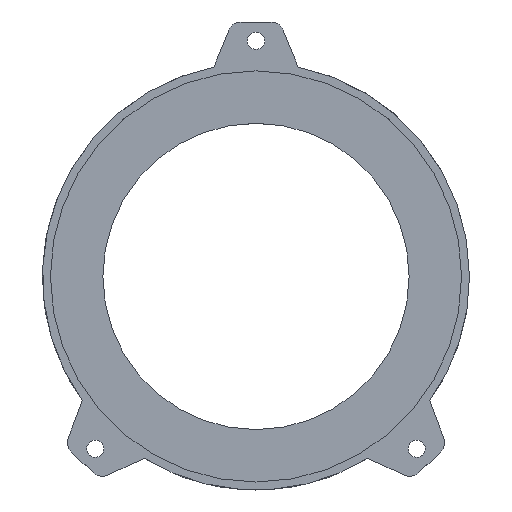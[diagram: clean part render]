
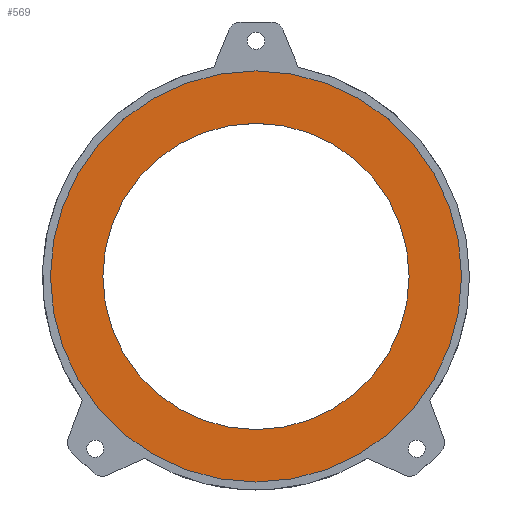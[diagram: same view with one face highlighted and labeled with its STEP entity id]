
A CAD part, top view. The second image highlights one B-rep face of the part: STEP entity #569.
In plain terms, the highlighted planar face has unit normal (0, 0, 1).
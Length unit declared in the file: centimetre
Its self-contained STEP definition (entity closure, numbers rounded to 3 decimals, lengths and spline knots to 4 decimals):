
#117=PLANE('',#623);
#192=VERTEX_POINT('',#758);
#237=VERTEX_POINT('',#888);
#239=CIRCLE('',#573,5.8);
#264=CIRCLE('',#622,7.7875);
#266=EDGE_CURVE('',#192,#192,#239,.T.);
#329=EDGE_CURVE('',#237,#237,#264,.T.);
#456=ORIENTED_EDGE('',*,*,#266,.T.);
#457=ORIENTED_EDGE('',*,*,#329,.F.);
#498=EDGE_LOOP('',(#456));
#499=EDGE_LOOP('',(#457));
#540=FACE_BOUND('',#498,.T.);
#541=FACE_BOUND('',#499,.T.);
#569=ADVANCED_FACE('',(#540,#541),#117,.T.);
#573=AXIS2_PLACEMENT_3D('',#757,#629,#630);
#622=AXIS2_PLACEMENT_3D('',#887,#750,#751);
#623=AXIS2_PLACEMENT_3D('',#889,#752,$);
#629=DIRECTION('',(0.,0.,-1.));
#630=DIRECTION('',(5.8,0.,0.));
#750=DIRECTION('',(0.,0.,-1.));
#751=DIRECTION('',(7.788,0.,0.));
#752=DIRECTION('',(0.,0.,1.));
#757=CARTESIAN_POINT('',(0.,0.,0.2));
#758=CARTESIAN_POINT('',(-5.8,0.,0.2));
#887=CARTESIAN_POINT('',(0.,0.,0.2));
#888=CARTESIAN_POINT('',(7.7875,0.,0.2));
#889=CARTESIAN_POINT('',(0.,0.,0.2));
